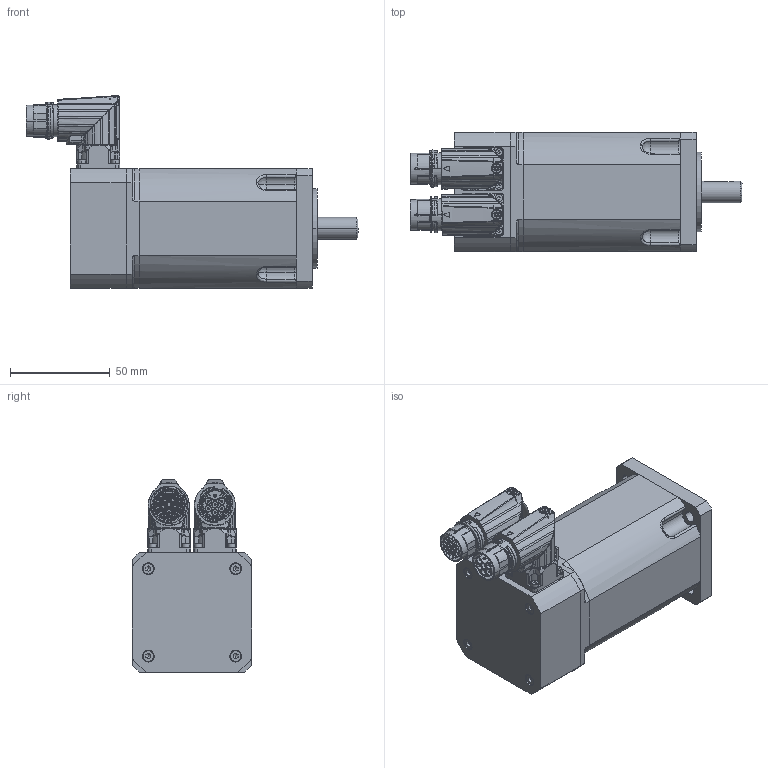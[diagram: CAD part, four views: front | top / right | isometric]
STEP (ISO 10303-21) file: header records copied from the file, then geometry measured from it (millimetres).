
FILE_DESCRIPTION(('CATIA V5 STEP Exchange'),'2;1');
FILE_NAME('C:\Documents and Settings\max\Documenti\sangallimotori\3d step\tg2\motore DSM5_20_Freno.stp','2010-12-11T01:03:53+00:00',('none'),('none'),'CATIA Version 5 Release 10 (IN-8)','CATIA V5 STEP AP203',' none');
FILE_SCHEMA(('CONFIG_CONTROL_DESIGN'));
Assembly tree (27 placements, depth 0):
Bounding box: 166.73 x 60 x 96.56 mm (x, y, z)
Volume: 421554.9 mm3; surface area: 76596.7 mm2
Topology: 24 solids, 25 shells, 3631 faces, 11616 edges, 8096 vertices
Faces by surface type: cylinder 1383, bspline 816, plane 753, torus 287, cone 284, sphere 96, revolution 12
Entity records: 174469 total; most frequent: CARTESIAN_POINT 96620, ORIENTED_EDGE 21058, EDGE_CURVE 10542, DIRECTION 9127, VERTEX_POINT 7446, B_SPLINE_CURVE_WITH_KNOTS 5164, AXIS2_PLACEMENT_3D 4404, EDGE_LOOP 3323
